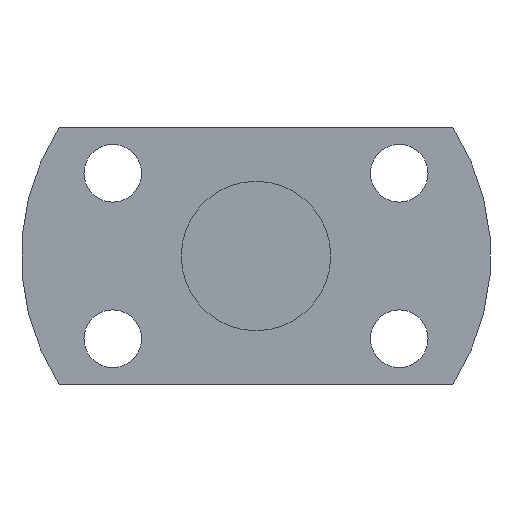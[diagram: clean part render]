
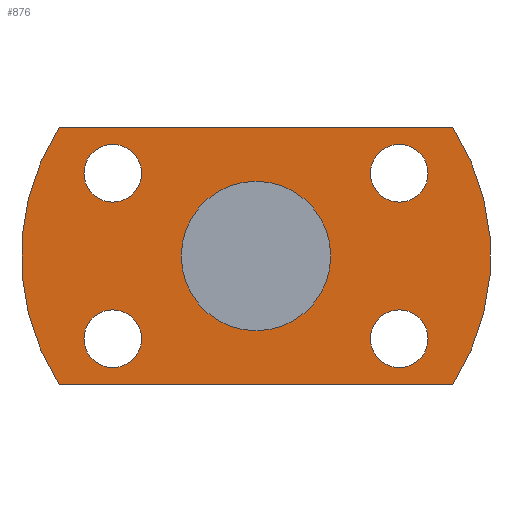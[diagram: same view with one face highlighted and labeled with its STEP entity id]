
A CAD part, left-side view. The second image highlights one B-rep face of the part: STEP entity #876.
In plain terms, the highlighted planar face has unit normal (-1, 0, 0).
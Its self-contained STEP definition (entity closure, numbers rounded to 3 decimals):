
#230=CARTESIAN_POINT('',(135.0,13.423,-5.05));
#231=VERTEX_POINT('',#230);
#232=CARTESIAN_POINT('',(135.0,13.423,-7.75));
#233=DIRECTION('',(1.0,0.0,0.0));
#234=DIRECTION('',(0.0,0.0,1.0));
#235=AXIS2_PLACEMENT_3D('',#232,#233,#234);
#236=CIRCLE('',#235,2.7);
#237=EDGE_CURVE('',#231,#231,#236,.T.);
#279=CARTESIAN_POINT('',(135.0,-13.423,10.45));
#280=VERTEX_POINT('',#279);
#281=CARTESIAN_POINT('',(135.0,-13.423,7.75));
#282=DIRECTION('',(1.0,0.0,0.0));
#283=DIRECTION('',(0.0,0.0,1.0));
#284=AXIS2_PLACEMENT_3D('',#281,#282,#283);
#285=CIRCLE('',#284,2.7);
#286=EDGE_CURVE('',#280,#280,#285,.T.);
#328=CARTESIAN_POINT('',(135.0,-13.423,-5.05));
#329=VERTEX_POINT('',#328);
#330=CARTESIAN_POINT('',(135.0,-13.423,-7.75));
#331=DIRECTION('',(1.0,0.0,0.0));
#332=DIRECTION('',(0.0,0.0,1.0));
#333=AXIS2_PLACEMENT_3D('',#330,#331,#332);
#334=CIRCLE('',#333,2.7);
#335=EDGE_CURVE('',#329,#329,#334,.T.);
#377=CARTESIAN_POINT('',(135.0,13.423,10.45));
#378=VERTEX_POINT('',#377);
#379=CARTESIAN_POINT('',(135.0,13.423,7.75));
#380=DIRECTION('',(1.0,0.0,0.0));
#381=DIRECTION('',(0.0,0.0,1.0));
#382=AXIS2_PLACEMENT_3D('',#379,#380,#381);
#383=CIRCLE('',#382,2.7);
#384=EDGE_CURVE('',#378,#378,#383,.T.);
#682=CARTESIAN_POINT('',(135.0,-18.439,-12.));
#683=VERTEX_POINT('',#682);
#690=CARTESIAN_POINT('',(135.0,18.439,-12.));
#691=VERTEX_POINT('',#690);
#692=CARTESIAN_POINT('',(135.0,18.439,-12.));
#693=DIRECTION('',(0.0,-1.0,0.0));
#694=VECTOR('',#693,36.878);
#695=LINE('',#692,#694);
#696=EDGE_CURVE('',#691,#683,#695,.T.);
#713=CARTESIAN_POINT('',(135.0,-18.439,12.));
#714=VERTEX_POINT('',#713);
#721=CARTESIAN_POINT('',(135.0,0.0,0.));
#722=DIRECTION('',(-1.0,0.0,0.0));
#723=DIRECTION('',(0.0,0.0,1.0));
#724=AXIS2_PLACEMENT_3D('',#721,#722,#723);
#725=CIRCLE('',#724,22.0);
#726=EDGE_CURVE('',#683,#714,#725,.T.);
#738=CARTESIAN_POINT('',(135.0,18.439,12.));
#739=VERTEX_POINT('',#738);
#746=CARTESIAN_POINT('',(135.0,-18.439,12.));
#747=DIRECTION('',(0.0,1.0,0.0));
#748=VECTOR('',#747,36.878);
#749=LINE('',#746,#748);
#750=EDGE_CURVE('',#714,#739,#749,.T.);
#763=CARTESIAN_POINT('',(135.0,0.0,0.));
#764=DIRECTION('',(-1.0,0.0,0.0));
#765=DIRECTION('',(0.0,0.0,1.0));
#766=AXIS2_PLACEMENT_3D('',#763,#764,#765);
#767=CIRCLE('',#766,22.0);
#768=EDGE_CURVE('',#739,#691,#767,.T.);
#842=CARTESIAN_POINT('',(135.0,0.0,9.));
#843=DIRECTION('',(-1.0,0.0,0.0));
#844=DIRECTION('',(0.0,0.0,1.0));
#845=AXIS2_PLACEMENT_3D('',#842,#843,#844);
#846=PLANE('',#845);
#847=ORIENTED_EDGE('',*,*,#768,.T.);
#848=ORIENTED_EDGE('',*,*,#696,.T.);
#849=ORIENTED_EDGE('',*,*,#726,.T.);
#850=ORIENTED_EDGE('',*,*,#750,.T.);
#851=EDGE_LOOP('',(#847,#848,#849,#850));
#852=FACE_OUTER_BOUND('',#851,.T.);
#853=ORIENTED_EDGE('',*,*,#237,.T.);
#854=EDGE_LOOP('',(#853));
#855=FACE_BOUND('',#854,.T.);
#856=ORIENTED_EDGE('',*,*,#286,.T.);
#857=EDGE_LOOP('',(#856));
#858=FACE_BOUND('',#857,.T.);
#859=ORIENTED_EDGE('',*,*,#335,.T.);
#860=EDGE_LOOP('',(#859));
#861=FACE_BOUND('',#860,.T.);
#862=ORIENTED_EDGE('',*,*,#384,.T.);
#863=EDGE_LOOP('',(#862));
#864=FACE_BOUND('',#863,.T.);
#865=CARTESIAN_POINT('',(135.0,0.0,7.));
#866=VERTEX_POINT('',#865);
#867=CARTESIAN_POINT('',(135.0,0.0,0.));
#868=DIRECTION('',(-1.0,0.0,0.0));
#869=DIRECTION('',(0.0,0.0,1.0));
#870=AXIS2_PLACEMENT_3D('',#867,#868,#869);
#871=CIRCLE('',#870,7.);
#872=EDGE_CURVE('',#866,#866,#871,.T.);
#873=ORIENTED_EDGE('',*,*,#872,.F.);
#874=EDGE_LOOP('',(#873));
#875=FACE_BOUND('',#874,.T.);
#876=ADVANCED_FACE('',(#852,#855,#858,#861,#864,#875),#846,.T.);
